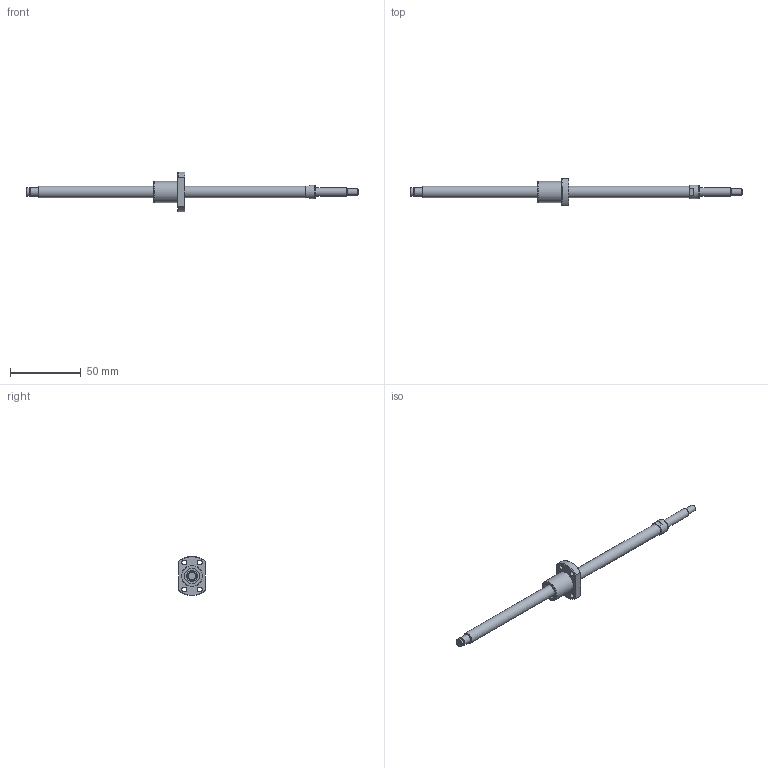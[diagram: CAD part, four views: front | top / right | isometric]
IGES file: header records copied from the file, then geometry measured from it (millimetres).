
Start section: Data from Parasolid IGES Translator 26.0.171, Copyright(c) 2006 Siemens PLM Software. All Rights Reserved.
Global section: file name: BNK0802-3RRG0+235LC5Y(103.5).igs; native system: By Siemens PLM Incorporated; preprocessor: XPlus GENERIC/IGES 26.0.171; author: Noname; organization: Noname; date: 20240709.084723; units: millimetre
Bounding box: 235 x 19 x 28 mm (x, y, z)
Surface area: 8626.2 mm2 (no closed solid volume)
Topology: 0 solids, 0 shells, 53 faces, 224 edges, 190 vertices
Faces by surface type: revolution 32, extrusion 21
